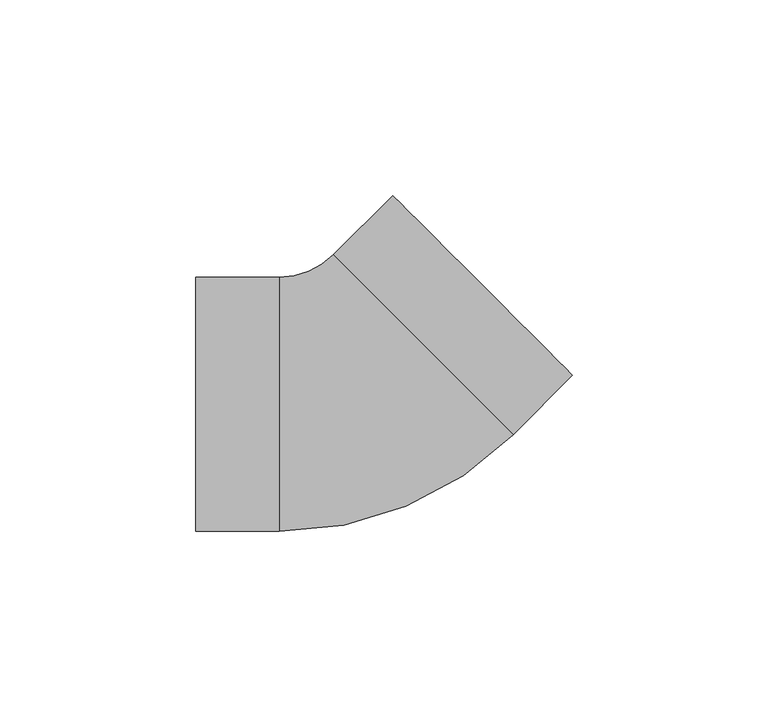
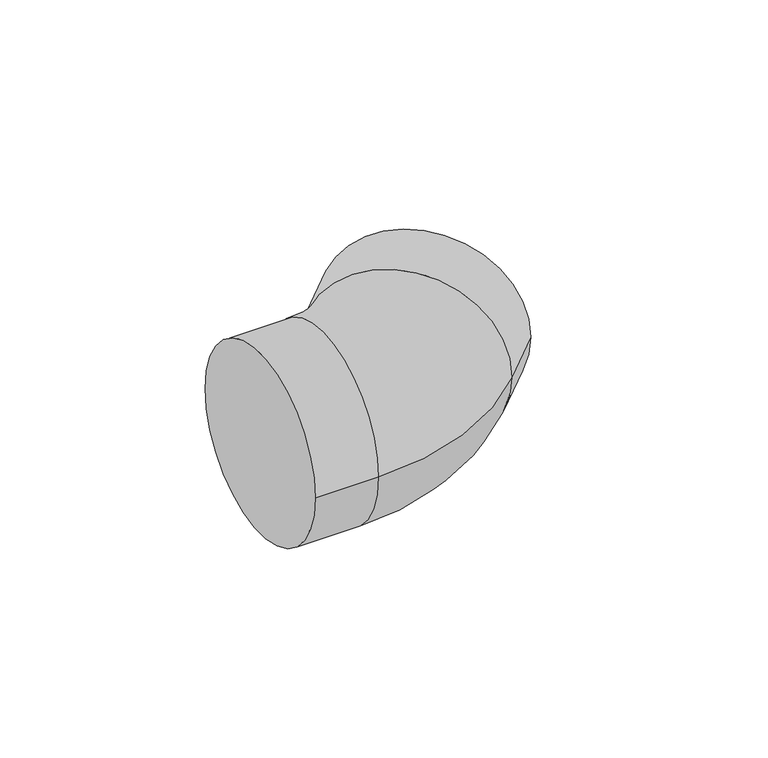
"""IFC4 building model written with IfcOpenShell, lengths in millimetres: pipe fitting geometry, PipeFitting_HTA_CPVC_Elbows : 50mm x 45°."""

from ifc_helpers import new_model, si_unit, point, frame, origin, place, context, project, spatial, circle_curve, ellipse_curve, trimmed, source, transform, mapped, element, save
from ifc_brep_helpers import plane_surface, cylinder_surface, revolved_surface, advanced_brep


def pipe_fitting_92fbb631(model_context):
    return source(origin(), model_context, "Body", "AdvancedBrep", [
        advanced_brep(
        [(-43.0, -32.5, 0.0), (-43.0, 32.5, 0.0), (-21.5391052, -32.5, 0.0), (-21.5391052, 32.5, 0.0), (-7.750523, 38.2114178, 0.0), (38.2114178, -7.750523, 0.0), (53.386562, 7.4246212, 0.0), (7.4246212, 53.386562, 0.0)],
        [
            (0, 1, circle_curve(frame((-43.0, 0.0, 0.0), z_axis=(-1.0, 0.0, 0.0), x_axis=(0.0, 1.0, 0.0)), 32.5)),
            (1, 0, circle_curve(frame((-43.0, 0.0, 0.0), z_axis=(-1.0, 0.0, 0.0), x_axis=(0.0, 1.0, 0.0)), 32.5)),
            (0, 2),
            (2, 3, circle_curve(frame((-21.5391052, 0.0, 0.0), z_axis=(-1.0, 0.0, 0.0), x_axis=(0.0, 1.0, 0.0)), 32.5)),
            (3, 1),
            (3, 2, circle_curve(frame((-21.5391052, 0.0, 0.0), z_axis=(-1.0, 0.0, 0.0), x_axis=(0.0, 1.0, 0.0)), 32.5)),
            (4, 3, circle_curve(frame((-21.5391052, 52.0, 0.0), z_axis=(0.0, 0.0, -1.0), x_axis=(0.0, -1.0, 0.0)), 19.5)),
            (2, 5, circle_curve(frame((-21.5391052, 52.0, 0.0), z_axis=(0.0, 0.0, 1.0), x_axis=(0.0, -1.0, 0.0)), 84.5)),
            (5, 4, circle_curve(frame((15.2304474, 15.2304474, 0.0), z_axis=(-0.7071067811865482, -0.7071067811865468, 0.0), x_axis=(-0.7071067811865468, 0.7071067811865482, 0.0)), 32.5)),
            (4, 5, circle_curve(frame((15.2304474, 15.2304474, 0.0), z_axis=(-0.7071067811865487, -0.7071067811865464, 0.0), x_axis=(-0.7071067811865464, 0.7071067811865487, 0.0)), 32.5)),
            (6, 7, circle_curve(frame((30.4055916, 30.4055916, 0.0), z_axis=(0.7071067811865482, 0.7071067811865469, 0.0), x_axis=(-0.7071067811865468, 0.7071067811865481, 0.0)), 32.5)),
            (7, 6, circle_curve(frame((30.4055916, 30.4055916, 0.0), z_axis=(0.7071067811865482, 0.7071067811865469, 0.0), x_axis=(-0.7071067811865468, 0.7071067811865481, 0.0)), 32.5)),
            (5, 6),
            (7, 4),
        ],
        [
            plane_surface(frame((-43.0, 0.0, 0.0), z_axis=(-1.0, 0.0, 0.0), x_axis=(0.0, 0.0, 1.0))),
            cylinder_surface(frame((-43.0, 0.0, 0.0), z_axis=(-1.0, 0.0, 0.0), x_axis=(0.0, 1.0, 0.0)), 32.5),
            revolved_surface(trimmed(ellipse_curve(frame((-21.5391052, 0.0, 0.0), z_axis=(-1.0, 0.0, 0.0), x_axis=(0.0, 1.0, 0.0)), 32.5, 32.5), [point((-21.5391052, -32.5, 0.0))], [point((-21.5391052, 32.5, 0.0))], True, "CARTESIAN"), (-21.5391052, 52.0, 0.0), (0.0, 0.0, 1.0)),
            revolved_surface(trimmed(ellipse_curve(frame((-21.5391052, 0.0, 0.0), z_axis=(-1.0, 0.0, 0.0), x_axis=(0.0, 1.0, 0.0)), 32.5, 32.5), [point((-21.5391052, 32.5, 0.0))], [point((-21.5391052, -32.5, 0.0))], True, "CARTESIAN"), (-21.5391052, 52.0, 0.0), (0.0, 0.0, 1.0)),
            plane_surface(frame((30.4055916, 30.4055916, 0.0), z_axis=(0.7071067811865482, 0.7071067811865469, 0.0), x_axis=(0.0, 0.0, 1.0))),
            cylinder_surface(frame((15.2304474, 15.2304474, 0.0), z_axis=(-0.7071067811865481, -0.7071067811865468, 0.0), x_axis=(-0.7071067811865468, 0.7071067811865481, 0.0)), 32.5),
        ],
        [
            (0, [[1, 2]]),
            (1, [[-1, 3, 4, 5]]),
            (1, [[-2, -5, 6, -3]]),
            (2, [[7, -4, 8, 9]]),
            (3, [[-8, -6, -7, 10]]),
            (4, [[11, 12]]),
            (5, [[-9, 13, -12, 14]]),
            (5, [[-10, -14, -11, -13]]),
        ],
    ),
    ])


if __name__ == "__main__":
    model = new_model("IFC4")
    model_context = context("Model", 3, world=origin())
    ifc_project = project(units=[si_unit("LENGTHUNIT", "METRE", prefix="MILLI")], contexts=[model_context])
    site = spatial("IfcSite", under=ifc_project)
    building = spatial("IfcBuilding", under=site)
    placement = place(None, origin())
    pipe_fitting_shape = pipe_fitting_92fbb631(model_context)
    element("IfcPipeFitting", 1, ObjectType="PipeFitting_HTA_CPVC_Elbows : 50mm x 45°", at=placement, inside=building, context=model_context, shape_type="MappedRepresentation", body=[
        mapped(pipe_fitting_shape, transform((0.0, 0.0, 0.0), x_axis=(1.0, 0.0, 0.0), y_axis=(0.0, 1.0, 0.0), z_axis=(0.0, 0.0, 1.0))),
    ])
    save(model, "model.ifc")
